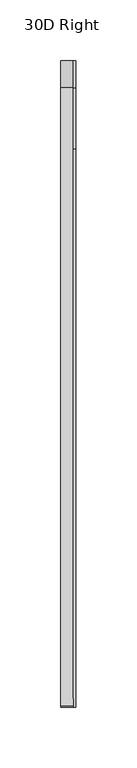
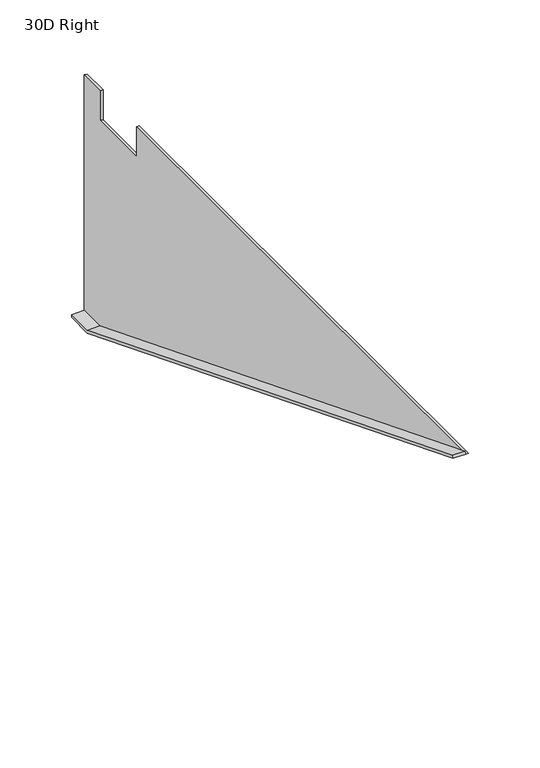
"""IFC4 building model written with IfcOpenShell, lengths in millimetres: furniture geometry, HermanMiller_Ethospace_E2393_WorkSurfaceSupport : 30D Right."""

from ifc_helpers import new_model, si_unit, frame, origin, place, context, project, spatial, polyline, outline, extrude, source, transform, mapped, element, save


def furniture_30d_right_d35b987e(model_context):
    return source(origin(), model_context, "Body", "SweptSolid", [
        extrude(outline(polyline([(254.0, 505.5235), (254.0, 503.2375), (231.775, 503.2375), (-279.6807823, 706.4375), (-278.8367354, 708.5619719), (232.2124796, 505.5235), (254.0, 505.5235)])), frame((-12.7, 0.0, 0.0), z_axis=(1.0, 0.0, 0.0), x_axis=(0.0, 1.0, 0.0)), (0.0, 0.0, 1.0), 10.414),
        extrude(outline(polyline([(254.0, 706.4375), (254.0, 503.2375), (231.775, 503.2375), (-279.6807823, 706.4375), (180.975, 706.4375), (180.975, 681.0375), (231.775, 681.0375), (231.775, 706.4375), (254.0, 706.4375)])), frame((-2.286, 0.0, 0.0), z_axis=(1.0, 0.0, 0.0), x_axis=(0.0, 1.0, 0.0)), (0.0, 0.0, 1.0), 2.286),
    ])


if __name__ == "__main__":
    model = new_model("IFC4")
    model_context = context("Model", 3, world=origin())
    ifc_project = project(units=[si_unit("LENGTHUNIT", "METRE", prefix="MILLI")], contexts=[model_context])
    site = spatial("IfcSite", under=ifc_project)
    building = spatial("IfcBuilding", under=site)
    placement = place(None, origin())
    furniture_30d_right_shape = furniture_30d_right_d35b987e(model_context)
    element("IfcFurniture", 1, ObjectType="HermanMiller_Ethospace_E2393_WorkSurfaceSupport : 30D Right", at=placement, inside=building, context=model_context, shape_type="MappedRepresentation", body=[
        mapped(furniture_30d_right_shape, transform((0.0, 0.0, 0.0), x_axis=(1.0, 0.0, 0.0), y_axis=(0.0, 1.0, 0.0), z_axis=(0.0, 0.0, 1.0))),
    ])
    save(model, "model.ifc")
